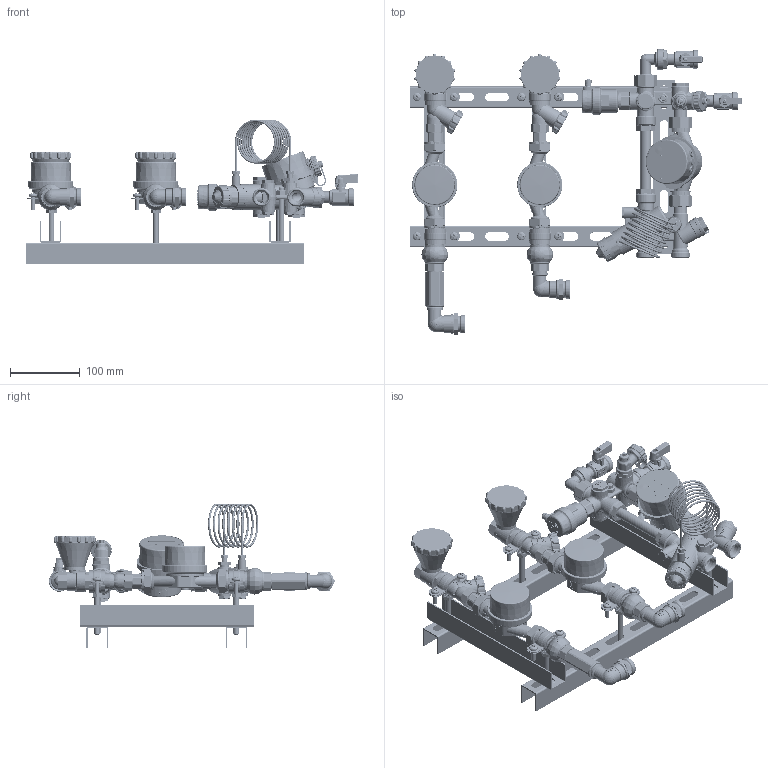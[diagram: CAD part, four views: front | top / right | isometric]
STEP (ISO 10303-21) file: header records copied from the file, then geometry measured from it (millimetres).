
FILE_DESCRIPTION(('STEP AP242'), '1');
FILE_NAME('覆.494726.027.000 捘 - VT.LM.H0.A0', '', ('UNSPECIFIED'), ('UNSPECIFIED'), 'C3D Converter', 'C3D Toolkit', '');
FILE_SCHEMA(('AP242_MANAGED_MODEL_BASED_3D_ENGINEERING_MIM_LF { 1 0 10303 442 1 1 4 }'));
Length unit declared in the file: millimetre
Products named in the file (221): ВР.494726.027.000 СБ; ВР.494726.024.000 СБ; ВР.494726.002.001 СБ; ВР.130300.003; ВР.407223.001.000 СБ; ВР.407223.001.002 СБ; ВР.731464.002; ВР.753182.016; ВР.714411.001; ВР.715113.003; ВР.407223.001.002.002 СБ; ВР.753192.014; ВР.715113.002; ВР.711141.021; ВР.713121.002; ВР.711141.022; ВР.407223.001.002.001 СБ; ВР.753181.009; ВР.713141.002; ВР.711141.023; ВР.711242.002; ВР.725113.002; ВР.752676.002; ВР.711123.001; ВР.407223.001.002.003 СБ; ВР.753125.009; ВР.712351.012; ВР.407223.001.001 СБ; ВР.407223.001.001.001 СБ; ВР.753191.017; ВР.741334.001; ВР.711112.001; ВР.711112.002; ВР.753191.016; ВР.714313.001; ВР.741331.001; ВР.714341.001; ВР.714621.003; ВР.305321.001.000 СБ; ВР.712351.001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
Assembly tree (278 placements, depth 8):
  ВР.494726.027.000 СБ
    ВР.494726.024.000 СБ
      ВР.494726.002.001 СБ
        ВР.130300.003
        ВР.407223.001.000 СБ
          ВР.407223.001.002 СБ
            ВР.731464.002
            ВР.753182.016
            ВР.714411.001
              ВР.715113.003
            ВР.407223.001.002.002 СБ
              ВР.753192.014
                ВР.715113.002
              ВР.711141.021
              ВР.713121.002
            ВР.711141.022
            ВР.407223.001.002.001 СБ
              ВР.753181.009
              ВР.713141.002
            (unnamed)
            ВР.711141.023
            ВР.711242.002
            ВР.725113.002
            ВР.752676.002
            ВР.711123.001  x2
            ВР.407223.001.002.003 СБ
              ВР.753125.009
              (unnamed)
          ВР.712351.012
          ВР.407223.001.001 СБ
            ВР.407223.001.001.001 СБ
              ВР.753191.017
              ВР.741334.001
              ВР.711112.001
            ВР.711112.002
            ВР.753191.016
            (unnamed)
            ВР.714313.001
            ВР.741331.001
            (unnamed)  x3
            ВР.714341.001  x2
            ВР.714621.003
        ВР.305321.001.000 СБ  x2
          ВР.712351.001
          ВР.714671.001
        ВР.758422.004  x2
        ВР.494726.002.001.002 СБ
          ВР.731371.001
          ВР.725140.002
          (unnamed)
            ВР.753125.023
            (unnamed)
          ВР.758421.046
          ВР.753612.008
          ВР.305319.007.000 СБ
            ВР.753125.011
            (unnamed)
          ВР.305319.008.000 СБ  x2
            ВР.753125.012
            (unnamed)
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Bounding box: 476.92 x 410.89 x 207.51 mm (x, y, z)
Volume: 1240699.5 mm3; surface area: 1059521.1 mm2
Topology: 324 solids, 328 shells, 26178 faces, 70626 edges, 46477 vertices
Faces by surface type: plane 10101, extrusion 7223, cylinder 5624, cone 1502, bspline 935, torus 711, sphere 82
Full cylindrical faces by diameter (mm): 0.4 x4, 0.6 x23, 0.7 x2, 0.8 x12, 1 x12, 1.1 x308, 1.2 x23, 1.3 x15, 1.5 x54, 1.55 x2, 1.6 x22, 1.66 x4, 1.7 x3, 1.8 x10, 1.9 x5, 2 x33, 2.1 x3, 2.2 x11, 2.3 x2, 2.4 x2, 2.5 x8, 2.8 x1, 3 x70, 3.1 x2, 3.242 x2, 3.4 x34, 3.5 x8, 3.6 x5, 3.8 x5, 3.9 x1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
Entity records: 683863 total; most frequent: CARTESIAN_POINT 326800, ORIENTED_EDGE 73812, DIRECTION 56972, EDGE_CURVE 36908, VERTEX_POINT 25043, VECTOR 21162, AXIS2_PLACEMENT_3D 17905, EDGE_LOOP 17453
